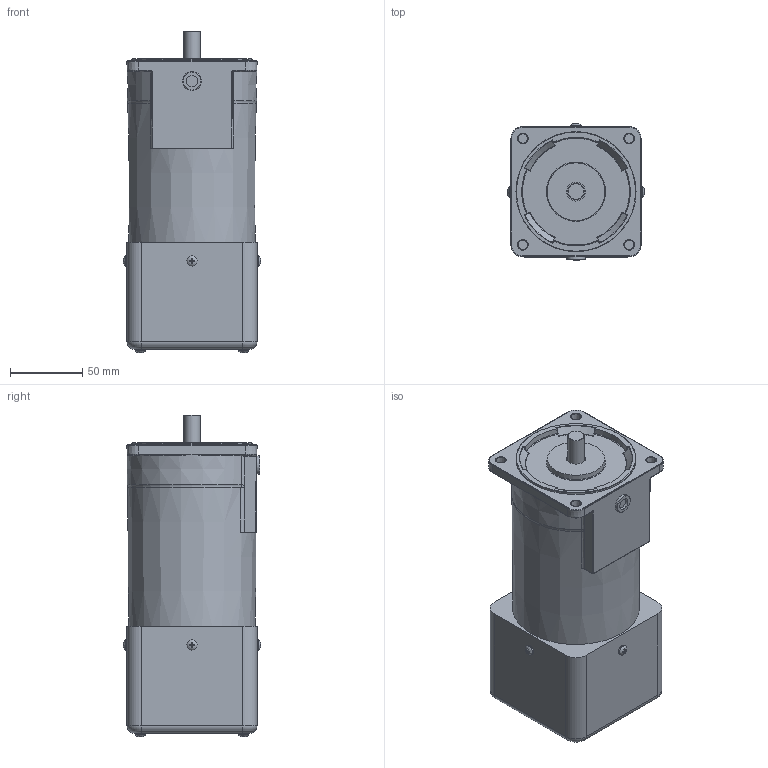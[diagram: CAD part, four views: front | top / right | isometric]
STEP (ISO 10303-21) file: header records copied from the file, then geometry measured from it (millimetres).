
FILE_DESCRIPTION (( 'STEP AP214' ), '1' );
FILE_NAME ('9TDG¤±-60F2P.STEP', '2025-01-13T08:14:10', ( '' ), ( '' ), 'SwSTEP 2.0', 'SolidWorks 2024', '' );
FILE_SCHEMA (( 'AUTOMOTIVE_DESIGN' ));
Length unit declared in the file: millimetre
Products named in the file (1): 9TDGㅁ-60F2P
Bounding box: 95.13 x 95.13 x 222.57 mm (x, y, z)
Volume: 1379786.2 mm3; surface area: 84601.3 mm2
Topology: 1 solids, 1 shells, 435 faces, 1124 edges, 721 vertices
Faces by surface type: plane 196, cylinder 133, bspline 36, torus 35, cone 33, sphere 2
Full cylindrical faces by diameter (mm): 6.5 x4, 7 x8, 8 x1, 10 x1, 11.39 x1, 13 x2, 83.1 x1
Entity records: 13902 total; most frequent: CARTESIAN_POINT 3912, ORIENTED_EDGE 2098, DIRECTION 1961, EDGE_CURVE 1049, AXIS2_PLACEMENT_3D 743, VERTEX_POINT 702, EDGE_LOOP 529, VECTOR 475
